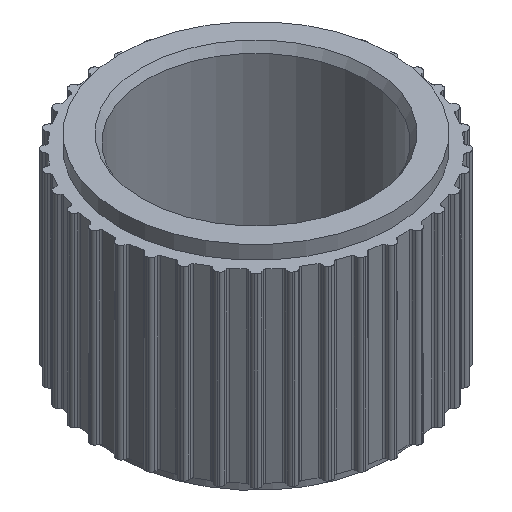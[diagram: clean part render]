
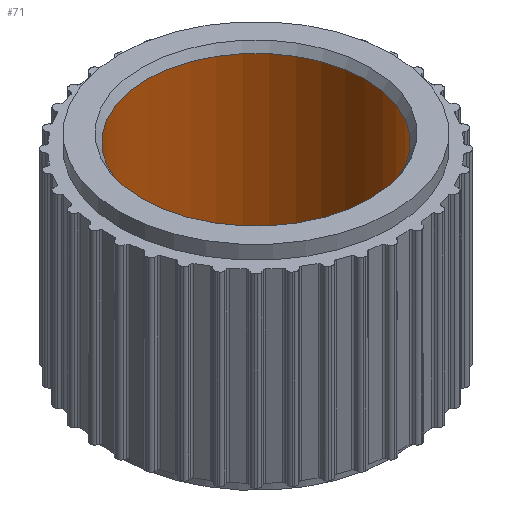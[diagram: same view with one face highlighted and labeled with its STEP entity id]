
A CAD part, isometric view. The second image highlights one B-rep face of the part: STEP entity #71.
In plain terms, the highlighted cylindrical face has radius 20 mm (diameter 40 mm), a full revolution.
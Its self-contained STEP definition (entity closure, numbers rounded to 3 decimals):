
#71=ADVANCED_FACE('',(#2744,#2746),#2748,.F.);
#2744=FACE_OUTER_BOUND('',#2745,.T.);
#2745=EDGE_LOOP('',(#4827));
#2746=FACE_OUTER_BOUND('',#2747,.T.);
#2747=EDGE_LOOP('',(#4828));
#2748=CYLINDRICAL_SURFACE('',#2749,20.);
#2749=AXIS2_PLACEMENT_3D('',#2750,#2751,#2752);
#2750=CARTESIAN_POINT('',(0.,0.,0.));
#2751=DIRECTION('',(0.,0.,1.));
#2752=DIRECTION('',(1.,0.,0.));
#4827=ORIENTED_EDGE('',*,*,#6571,.F.);
#4828=ORIENTED_EDGE('',*,*,#6572,.F.);
#6571=EDGE_CURVE('',#7447,#7447,#7448,.F.);
#6572=EDGE_CURVE('',#7449,#7449,#7450,.T.);
#7447=VERTEX_POINT('',#8915);
#7448=CIRCLE('',#8916,20.);
#7449=VERTEX_POINT('',#8920);
#7450=CIRCLE('',#8921,20.);
#8915=CARTESIAN_POINT('',(20.,0.,37.5));
#8916=AXIS2_PLACEMENT_3D('',#8917,#8918,#8919);
#8917=CARTESIAN_POINT('',(0.,0.,37.5));
#8918=DIRECTION('',(0.,0.,1.));
#8919=DIRECTION('',(1.,0.,0.));
#8920=CARTESIAN_POINT('',(20.,0.,1.5));
#8921=AXIS2_PLACEMENT_3D('',#8922,#8923,#8924);
#8922=CARTESIAN_POINT('',(0.,0.,1.5));
#8923=DIRECTION('',(0.,0.,1.));
#8924=DIRECTION('',(1.,0.,0.));
